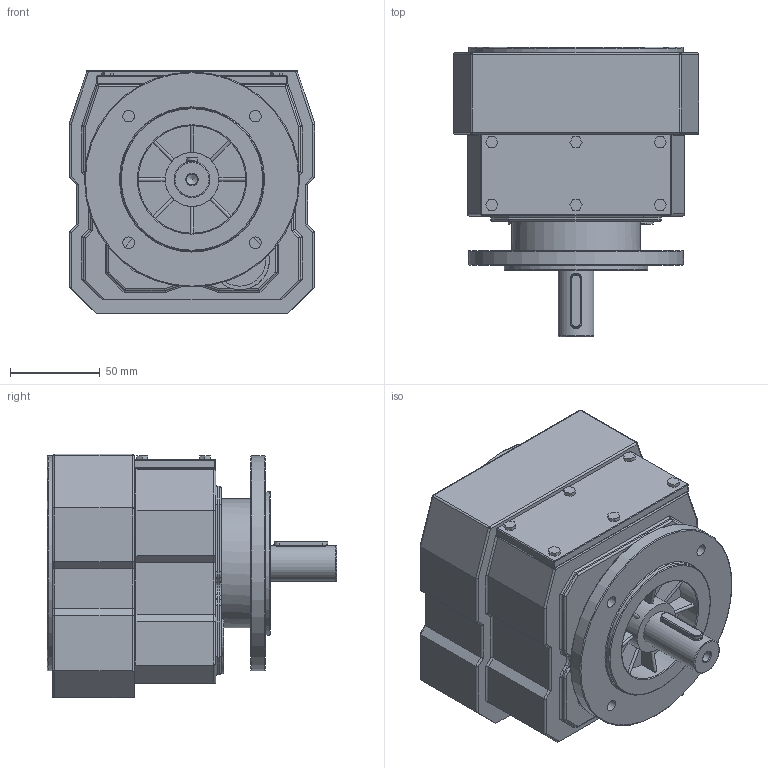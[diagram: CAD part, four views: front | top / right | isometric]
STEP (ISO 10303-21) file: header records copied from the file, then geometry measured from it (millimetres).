
FILE_DESCRIPTION((''),'2;1');
FILE_NAME('D:\PAWEŁ\ZLECENIA\2011 DualSystem\Przekładnie DR\DR10\STEP\DRF10_fi 120.stp','2012-06-11T11:45:32',('admin'),(''),'Autodesk Inventor 2009','Autodesk Inventor 2009','');
FILE_SCHEMA(('AUTOMOTIVE_DESIGN { 1 0 10303 214 1 1 1 1 }'));
Length unit declared in the file: millimetre
Products named in the file (1): DRF10_fi 120
Bounding box: 137 x 161.5 x 136 mm (x, y, z)
Volume: 1678206.1 mm3; surface area: 114269.3 mm2
Topology: 1 solids, 1 shells, 331 faces, 800 edges, 477 vertices
Faces by surface type: plane 152, cylinder 133, bspline 19, torus 17, sphere 10
Full cylindrical faces by diameter (mm): 20 x1, 22 x1, 29 x1, 30 x1, 60 x1, 72 x1, 80 x2, 120 x2
Entity records: 10526 total; most frequent: CARTESIAN_POINT 2816, DIRECTION 1615, ORIENTED_EDGE 1528, EDGE_CURVE 764, AXIS2_PLACEMENT_3D 565, VECTOR 485, LINE 485, VERTEX_POINT 469
